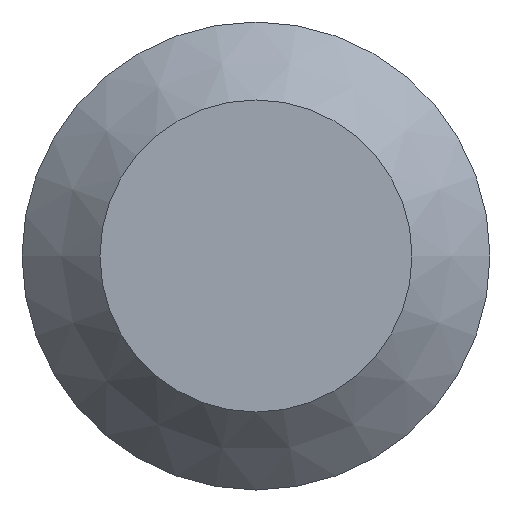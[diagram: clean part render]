
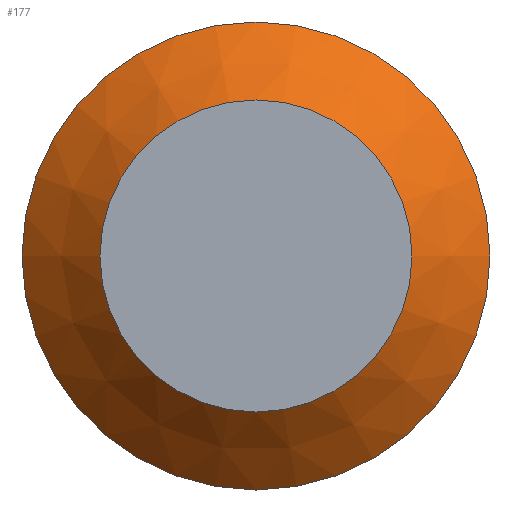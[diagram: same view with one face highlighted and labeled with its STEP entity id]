
A CAD part, front view. The second image highlights one B-rep face of the part: STEP entity #177.
In plain terms, the highlighted conical face has half-angle 45 degrees and reference radius 2.5 mm.
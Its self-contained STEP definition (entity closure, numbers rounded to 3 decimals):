
#24=FACE_OUTER_BOUND('',#35,.T.);
#35=EDGE_LOOP('',(#123,#124,#125,#126,#127));
#48=LINE('',#310,#55);
#55=VECTOR('',#243,2.5);
#62=CIRCLE('',#209,3.);
#63=CIRCLE('',#210,2.);
#64=CIRCLE('',#211,3.);
#80=VERTEX_POINT('',#306);
#81=VERTEX_POINT('',#307);
#82=VERTEX_POINT('',#309);
#98=EDGE_CURVE('',#80,#81,#62,.T.);
#99=EDGE_CURVE('',#80,#82,#48,.T.);
#100=EDGE_CURVE('',#82,#82,#63,.T.);
#101=EDGE_CURVE('',#81,#80,#64,.T.);
#123=ORIENTED_EDGE('',*,*,#98,.F.);
#124=ORIENTED_EDGE('',*,*,#99,.T.);
#125=ORIENTED_EDGE('',*,*,#100,.F.);
#126=ORIENTED_EDGE('',*,*,#99,.F.);
#127=ORIENTED_EDGE('',*,*,#101,.F.);
#173=CONICAL_SURFACE('',#208,2.5,0.785);
#177=ADVANCED_FACE('',(#24),#173,.T.);
#208=AXIS2_PLACEMENT_3D('',#305,#239,#240);
#209=AXIS2_PLACEMENT_3D('',#308,#241,#242);
#210=AXIS2_PLACEMENT_3D('',#311,#244,#245);
#211=AXIS2_PLACEMENT_3D('',#312,#246,#247);
#239=DIRECTION('center_axis',(0.,1.,0.));
#240=DIRECTION('ref_axis',(-1.,0.,0.));
#241=DIRECTION('center_axis',(0.,1.,0.));
#242=DIRECTION('ref_axis',(-1.,0.,0.));
#243=DIRECTION('',(-0.707,-0.707,0.));
#244=DIRECTION('center_axis',(0.,-1.,0.));
#245=DIRECTION('ref_axis',(-1.,0.,0.));
#246=DIRECTION('center_axis',(0.,1.,0.));
#247=DIRECTION('ref_axis',(-1.,0.,0.));
#305=CARTESIAN_POINT('Origin',(-44.5,-49.5,0.));
#306=CARTESIAN_POINT('',(-41.5,-49.,0.));
#307=CARTESIAN_POINT('',(-47.5,-49.,0.));
#308=CARTESIAN_POINT('Origin',(-44.5,-49.,0.));
#309=CARTESIAN_POINT('',(-42.5,-50.,0.));
#310=CARTESIAN_POINT('',(-42.,-49.5,0.));
#311=CARTESIAN_POINT('Origin',(-44.5,-50.,0.));
#312=CARTESIAN_POINT('Origin',(-44.5,-49.,0.));
